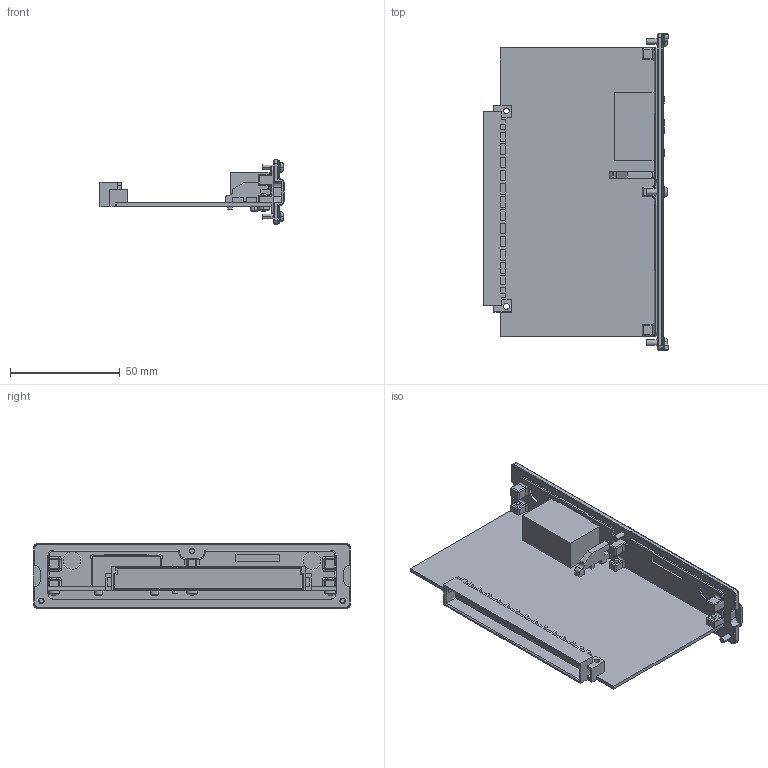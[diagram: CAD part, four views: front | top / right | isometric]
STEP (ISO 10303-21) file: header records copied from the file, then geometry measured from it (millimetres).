
FILE_DESCRIPTION((''),'2;1');
FILE_NAME('1_PX01PN_STEP_SW0001','2018-10-08T',('mellertr'),(''),'CREO PARAMETRIC BY PTC INC, 2017480','CREO PARAMETRIC BY PTC INC, 2017480','');
FILE_SCHEMA(('CONFIG_CONTROL_DESIGN'));
Products named in the file (1): 1_PX01PN_STEP_SW0001
Bounding box: 83.69 x 144 x 29.5 mm (x, y, z)
Volume: 41183.8 mm3; surface area: 36812.6 mm2
Topology: 1 solids, 1 shells, 908 faces, 2329 edges, 1464 vertices
Faces by surface type: bspline 908
Entity records: 47200 total; most frequent: CARTESIAN_POINT 22045, ORIENTED_EDGE 4648, DIRECTION 2840, EDGE_CURVE 2324, VERTEX_POINT 1464, VECTOR 1448, LINE 1448, EDGE_LOOP 966
